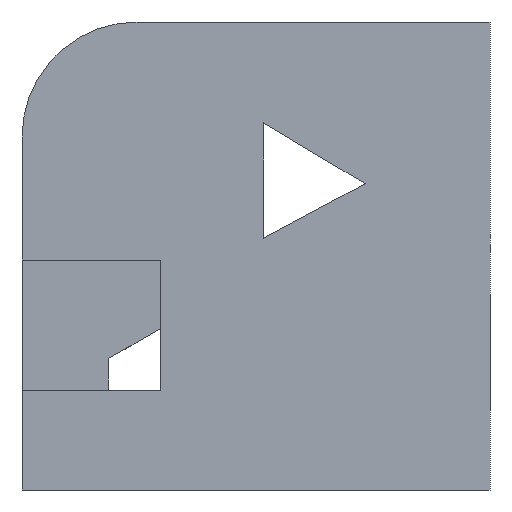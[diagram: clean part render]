
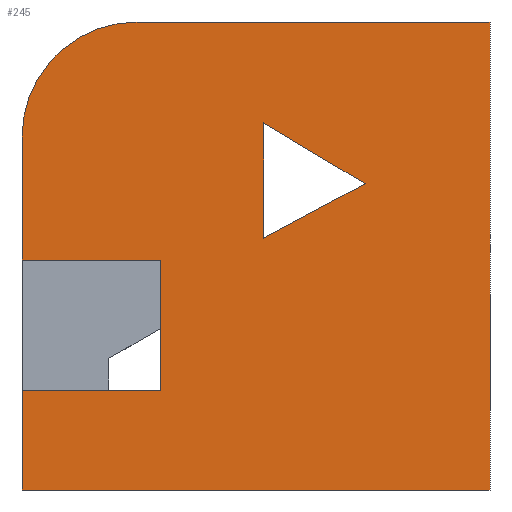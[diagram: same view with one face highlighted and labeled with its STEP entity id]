
A CAD part, front view. The second image highlights one B-rep face of the part: STEP entity #245.
In plain terms, the highlighted planar face has unit normal (0, -1, 0).
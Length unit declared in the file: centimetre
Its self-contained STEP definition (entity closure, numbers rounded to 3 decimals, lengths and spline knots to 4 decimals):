
#7 = ORIENTED_EDGE ( 'NONE', *, *, #1032, .F. ) ;
#38 = CARTESIAN_POINT ( 'NONE',  ( 245.7415, 0., 1000. ) ) ;
#71 = CARTESIAN_POINT ( 'NONE',  ( 0., 0., 1000. ) ) ;
#83 = EDGE_CURVE ( 'NONE', #429, #432, #658, .T. ) ;
#87 = ORIENTED_EDGE ( 'NONE', *, *, #83, .F. ) ;
#89 = LINE ( 'NONE', #503, #506 ) ;
#95 = EDGE_CURVE ( 'NONE', #142, #493, #962, .T. ) ;
#96 = DIRECTION ( 'NONE',  ( 0., 0., -1. ) ) ;
#111 = DIRECTION ( 'NONE',  ( 0., -1., 0. ) ) ;
#125 = CARTESIAN_POINT ( 'NONE',  ( 1000., 0., 0. ) ) ;
#142 = VERTEX_POINT ( 'NONE', #974 ) ;
#144 = DIRECTION ( 'NONE',  ( -1., 0., 0. ) ) ;
#146 = LINE ( 'NONE', #647, #1156 ) ;
#180 = VECTOR ( 'NONE', #1063, 100. ) ;
#186 = EDGE_CURVE ( 'NONE', #829, #142, #783, .T. ) ;
#191 = PLANE ( 'NONE',  #968 ) ;
#200 = CARTESIAN_POINT ( 'NONE',  ( 0., 0., 1000. ) ) ;
#205 = ORIENTED_EDGE ( 'NONE', *, *, #869, .F. ) ;
#210 = CARTESIAN_POINT ( 'NONE',  ( 0., 0., 1000. ) ) ;
#218 = DIRECTION ( 'NONE',  ( 0., 0., 1. ) ) ;
#222 = ORIENTED_EDGE ( 'NONE', *, *, #1111, .F. ) ;
#236 = LINE ( 'NONE', #1227, #1068 ) ;
#241 = LINE ( 'NONE', #827, #525 ) ;
#245 = ADVANCED_FACE ( 'NONE', ( #706, #992 ), #191, .F. ) ;
#256 = CARTESIAN_POINT ( 'NONE',  ( 0., 0., 213.0769 ) ) ;
#293 = CARTESIAN_POINT ( 'NONE',  ( 516.176, 0., 784.2695 ) ) ;
#303 = VERTEX_POINT ( 'NONE', #841 ) ;
#306 = VECTOR ( 'NONE', #470, 100. ) ;
#313 = EDGE_CURVE ( 'NONE', #873, #726, #882, .T. ) ;
#327 = AXIS2_PLACEMENT_3D ( 'NONE', #640, #111, #1119 ) ;
#354 = EDGE_LOOP ( 'NONE', ( #406, #222, #542, #87, #1236, #1229, #7, #205, #800 ) ) ;
#406 = ORIENTED_EDGE ( 'NONE', *, *, #1059, .T. ) ;
#416 = DIRECTION ( 'NONE',  ( 0., 0., -1. ) ) ;
#429 = VERTEX_POINT ( 'NONE', #1067 ) ;
#432 = VERTEX_POINT ( 'NONE', #1165 ) ;
#433 = EDGE_CURVE ( 'NONE', #493, #829, #146, .T. ) ;
#470 = DIRECTION ( 'NONE',  ( 0., 0., -1. ) ) ;
#492 = CARTESIAN_POINT ( 'NONE',  ( 0., 0., 1000. ) ) ;
#493 = VERTEX_POINT ( 'NONE', #977 ) ;
#502 = CARTESIAN_POINT ( 'NONE',  ( 0., 0., 754.2585 ) ) ;
#503 = CARTESIAN_POINT ( 'NONE',  ( 0., 0., 0. ) ) ;
#506 = VECTOR ( 'NONE', #600, 100. ) ;
#510 = CARTESIAN_POINT ( 'NONE',  ( 0., 0., 491.451 ) ) ;
#520 = EDGE_LOOP ( 'NONE', ( #852, #560, #641 ) ) ;
#525 = VECTOR ( 'NONE', #218, 100. ) ;
#540 = EDGE_CURVE ( 'NONE', #429, #1225, #1256, .T. ) ;
#542 = ORIENTED_EDGE ( 'NONE', *, *, #1073, .F. ) ;
#544 = LINE ( 'NONE', #210, #922 ) ;
#560 = ORIENTED_EDGE ( 'NONE', *, *, #186, .F. ) ;
#572 = CARTESIAN_POINT ( 'NONE',  ( 516.176, 0., 538.284 ) ) ;
#587 = CARTESIAN_POINT ( 'NONE',  ( 0., 0., 0. ) ) ;
#600 = DIRECTION ( 'NONE',  ( 1., 0., 0. ) ) ;
#640 = CARTESIAN_POINT ( 'NONE',  ( 245.7415, 0., 754.2585 ) ) ;
#641 = ORIENTED_EDGE ( 'NONE', *, *, #433, .F. ) ;
#647 = CARTESIAN_POINT ( 'NONE',  ( 733.1251, 0., 654.488 ) ) ;
#650 = VERTEX_POINT ( 'NONE', #510 ) ;
#658 = LINE ( 'NONE', #256, #180 ) ;
#685 = DIRECTION ( 'NONE',  ( 0., 0., -1. ) ) ;
#698 = CARTESIAN_POINT ( 'NONE',  ( 1000., 0., 1000. ) ) ;
#706 = FACE_BOUND ( 'NONE', #520, .T. ) ;
#724 = LINE ( 'NONE', #698, #972 ) ;
#726 = VERTEX_POINT ( 'NONE', #502 ) ;
#783 = LINE ( 'NONE', #293, #949 ) ;
#800 = ORIENTED_EDGE ( 'NONE', *, *, #313, .T. ) ;
#827 = CARTESIAN_POINT ( 'NONE',  ( 295.3288, 0., 213.0769 ) ) ;
#829 = VERTEX_POINT ( 'NONE', #1239 ) ;
#832 = VECTOR ( 'NONE', #1257, 100. ) ;
#841 = CARTESIAN_POINT ( 'NONE',  ( 295.3288, 0., 491.451 ) ) ;
#852 = ORIENTED_EDGE ( 'NONE', *, *, #95, .F. ) ;
#869 = EDGE_CURVE ( 'NONE', #873, #963, #544, .T. ) ;
#873 = VERTEX_POINT ( 'NONE', #38 ) ;
#882 = CIRCLE ( 'NONE', #327, 245.7415 ) ;
#897 = DIRECTION ( 'NONE',  ( 0., 1., 0. ) ) ;
#908 = VERTEX_POINT ( 'NONE', #125 ) ;
#922 = VECTOR ( 'NONE', #923, 100. ) ;
#923 = DIRECTION ( 'NONE',  ( 1., 0., 0. ) ) ;
#949 = VECTOR ( 'NONE', #685, 100. ) ;
#962 = LINE ( 'NONE', #572, #832 ) ;
#963 = VERTEX_POINT ( 'NONE', #1231 ) ;
#968 = AXIS2_PLACEMENT_3D ( 'NONE', #492, #897, #996 ) ;
#972 = VECTOR ( 'NONE', #96, 100. ) ;
#974 = CARTESIAN_POINT ( 'NONE',  ( 516.176, 0., 538.284 ) ) ;
#977 = CARTESIAN_POINT ( 'NONE',  ( 733.1251, 0., 654.488 ) ) ;
#992 = FACE_OUTER_BOUND ( 'NONE', #354, .T. ) ;
#996 = DIRECTION ( 'NONE',  ( 0., 0., 1. ) ) ;
#1032 = EDGE_CURVE ( 'NONE', #963, #908, #724, .T. ) ;
#1039 = DIRECTION ( 'NONE',  ( -0.858, 0., 0.513 ) ) ;
#1059 = EDGE_CURVE ( 'NONE', #726, #650, #1301, .T. ) ;
#1063 = DIRECTION ( 'NONE',  ( 1., 0., 0. ) ) ;
#1067 = CARTESIAN_POINT ( 'NONE',  ( 0., 0., 213.0769 ) ) ;
#1068 = VECTOR ( 'NONE', #144, 100. ) ;
#1073 = EDGE_CURVE ( 'NONE', #432, #303, #241, .T. ) ;
#1088 = VECTOR ( 'NONE', #416, 100. ) ;
#1111 = EDGE_CURVE ( 'NONE', #303, #650, #236, .T. ) ;
#1119 = DIRECTION ( 'NONE',  ( 0., 0., 1. ) ) ;
#1156 = VECTOR ( 'NONE', #1039, 100. ) ;
#1165 = CARTESIAN_POINT ( 'NONE',  ( 295.3288, 0., 213.0769 ) ) ;
#1225 = VERTEX_POINT ( 'NONE', #587 ) ;
#1227 = CARTESIAN_POINT ( 'NONE',  ( 0., 0., 491.451 ) ) ;
#1229 = ORIENTED_EDGE ( 'NONE', *, *, #1252, .T. ) ;
#1231 = CARTESIAN_POINT ( 'NONE',  ( 1000., 0., 1000. ) ) ;
#1236 = ORIENTED_EDGE ( 'NONE', *, *, #540, .T. ) ;
#1239 = CARTESIAN_POINT ( 'NONE',  ( 516.176, 0., 784.2695 ) ) ;
#1252 = EDGE_CURVE ( 'NONE', #1225, #908, #89, .T. ) ;
#1256 = LINE ( 'NONE', #71, #306 ) ;
#1257 = DIRECTION ( 'NONE',  ( 0.882, 0., 0.472 ) ) ;
#1301 = LINE ( 'NONE', #200, #1088 ) ;
